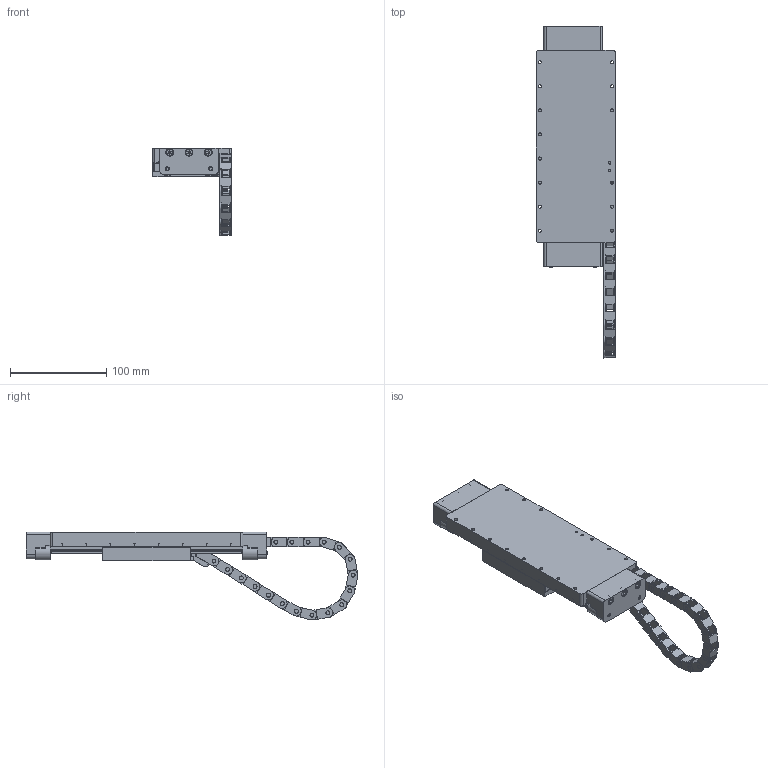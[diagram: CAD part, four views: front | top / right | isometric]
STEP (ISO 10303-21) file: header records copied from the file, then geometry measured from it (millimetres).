
FILE_DESCRIPTION (( 'STEP AP214' ), '1' );
FILE_NAME ('MLL-82200.STEP', '2023-11-02T07:17:24', ( 'Name' ), ( 'SmarAct GmbH' ), 'SwSTEP 2.0', 'SolidWorks 2021', '' );
FILE_SCHEMA (( 'AUTOMOTIVE_DESIGN' ));
Length unit declared in the file: millimetre
Products named in the file (17): 10011851_00_Parent; 10015724; 10011847_EX; 10012285_00_Parent; ISO 4762 M4 x 25 - 22.9N-A2_ISO 4762 M4 x 25 - 22.9N-A2; 10006933_00_Parent; 10011848_00_Parent; ISO 4762 M3 x 5 - 3.5N-A2_ISO 4762 M3 x 5 - 3.5N-A2; 10016349_00_Parent; ISO 4762 M2 x 18 - 16.8N-A2_ISO 4762 M2 x 18 - 16.8N-A2; 10015723; 10015725; 10006925_00_Parent; ISO 4762 M2 x 4 - 2.8N-A2_ISO 4762 M2 x 4 - 2.8N-A2; 10012282_EX; MLL-82200; ISO 7046-1 - M3 x 4 - 4N-A2-PH_ISO 7046-1 - M3 x 4 - 4N-A2-PH
Assembly tree (91 placements, depth 3):
  MLL-82200
    10012282_EX
    10012285_00_Parent  x2
    10006933_00_Parent  x4
    10011848_00_Parent  x2
    10006925_00_Parent  x4
    10011847_EX
    10011851_00_Parent
    10016349_00_Parent
      10015723
      10015724
      10015725  x23
    ISO 4762 M3 x 5 - 3.5N-A2_ISO 4762 M3 x 5 - 3.5N-A2  x36
    ISO 4762 M2 x 18 - 16.8N-A2_ISO 4762 M2 x 18 - 16.8N-A2  x2
    ISO 4762 M4 x 25 - 22.9N-A2_ISO 4762 M4 x 25 - 22.9N-A2  x6
    ISO 4762 M2 x 4 - 2.8N-A2_ISO 4762 M2 x 4 - 2.8N-A2  x2
    ISO 7046-1 - M3 x 4 - 4N-A2-PH_ISO 7046-1 - M3 x 4 - 4N-A2-PH  x4
Bounding box: 82.15 x 344.58 x 91.32 mm (x, y, z)
Volume: 447200.3 mm3; surface area: 170892.5 mm2
Topology: 90 solids, 90 shells, 3585 faces, 8814 edges, 5481 vertices
Faces by surface type: plane 1746, cylinder 1245, cone 402, torus 192
Entity records: 35830 total; most frequent: DIRECTION 6043, CARTESIAN_POINT 5525, ORIENTED_EDGE 5140, EDGE_CURVE 2570, AXIS2_PLACEMENT_3D 2335, VERTEX_POINT 1667, VECTOR 1373, LINE 1373
